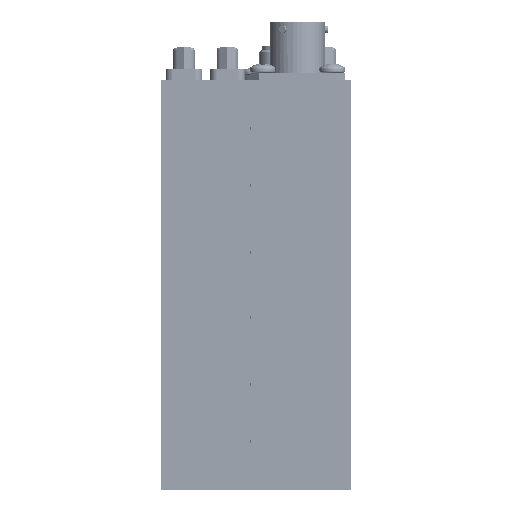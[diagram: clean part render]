
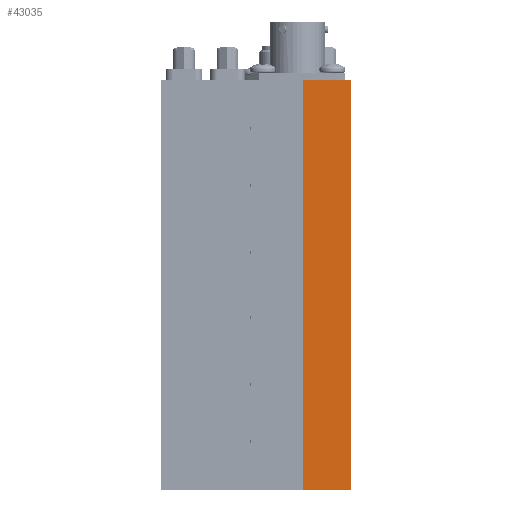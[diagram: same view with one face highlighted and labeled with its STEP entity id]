
A CAD part, left-side view. The second image highlights one B-rep face of the part: STEP entity #43035.
In plain terms, the highlighted planar face has unit normal (-1, 0, 0).
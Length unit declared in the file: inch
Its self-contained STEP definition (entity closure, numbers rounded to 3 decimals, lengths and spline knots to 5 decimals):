
#15645 = DIRECTION ( 'NONE',  ( 0., 0., -1. ) ) ;
#18310 = ORIENTED_EDGE ( 'NONE', *, *, #150866, .T. ) ;
#24161 = VECTOR ( 'NONE', #73303, 39.37008 ) ;
#26728 = CARTESIAN_POINT ( 'NONE',  ( -1.25, 0.4084, -1.5 ) ) ;
#43035 = ADVANCED_FACE ( 'NONE', ( #87721 ), #148782, .F. ) ;
#48945 = CARTESIAN_POINT ( 'NONE',  ( -1.25, 0., -1.5 ) ) ;
#49315 = CARTESIAN_POINT ( 'NONE',  ( -1.25, 0.4084, 2. ) ) ;
#52049 = DIRECTION ( 'NONE',  ( 0., 0., 1. ) ) ;
#54979 = VERTEX_POINT ( 'NONE', #48945 ) ;
#55544 = CARTESIAN_POINT ( 'NONE',  ( -1.25, 0., 2. ) ) ;
#62888 = DIRECTION ( 'NONE',  ( 0., -1., 0. ) ) ;
#65314 = VERTEX_POINT ( 'NONE', #160282 ) ;
#65581 = CARTESIAN_POINT ( 'NONE',  ( -1.25, 0., -1.5 ) ) ;
#73303 = DIRECTION ( 'NONE',  ( 0., -1., 0. ) ) ;
#76457 = VECTOR ( 'NONE', #62888, 39.37008 ) ;
#82695 = CARTESIAN_POINT ( 'NONE',  ( -1.25, 0.4084, -1.5 ) ) ;
#83128 = AXIS2_PLACEMENT_3D ( 'NONE', #82695, #96243, #15645 ) ;
#85741 = EDGE_CURVE ( 'NONE', #65314, #54979, #99989, .T. ) ;
#87721 = FACE_OUTER_BOUND ( 'NONE', #136819, .T. ) ;
#90598 = LINE ( 'NONE', #26728, #170805 ) ;
#96243 = DIRECTION ( 'NONE',  ( 1., 0., 0. ) ) ;
#97419 = ORIENTED_EDGE ( 'NONE', *, *, #134347, .F. ) ;
#99989 = LINE ( 'NONE', #167647, #24161 ) ;
#103313 = LINE ( 'NONE', #65581, #166527 ) ;
#104586 = VERTEX_POINT ( 'NONE', #110744 ) ;
#110744 = CARTESIAN_POINT ( 'NONE',  ( -1.25, 0.4084, 2. ) ) ;
#120933 = DIRECTION ( 'NONE',  ( 0., 0., 1. ) ) ;
#126665 = ORIENTED_EDGE ( 'NONE', *, *, #150925, .F. ) ;
#134347 = EDGE_CURVE ( 'NONE', #104586, #147050, #171376, .T. ) ;
#136819 = EDGE_LOOP ( 'NONE', ( #18310, #97419, #126665, #154735 ) ) ;
#147050 = VERTEX_POINT ( 'NONE', #55544 ) ;
#148782 = PLANE ( 'NONE',  #83128 ) ;
#150866 = EDGE_CURVE ( 'NONE', #54979, #147050, #103313, .T. ) ;
#150925 = EDGE_CURVE ( 'NONE', #65314, #104586, #90598, .T. ) ;
#154735 = ORIENTED_EDGE ( 'NONE', *, *, #85741, .T. ) ;
#160282 = CARTESIAN_POINT ( 'NONE',  ( -1.25, 0.4084, -1.5 ) ) ;
#166527 = VECTOR ( 'NONE', #52049, 39.37008 ) ;
#167647 = CARTESIAN_POINT ( 'NONE',  ( -1.25, 0.4084, -1.5 ) ) ;
#170805 = VECTOR ( 'NONE', #120933, 39.37008 ) ;
#171376 = LINE ( 'NONE', #49315, #76457 ) ;
